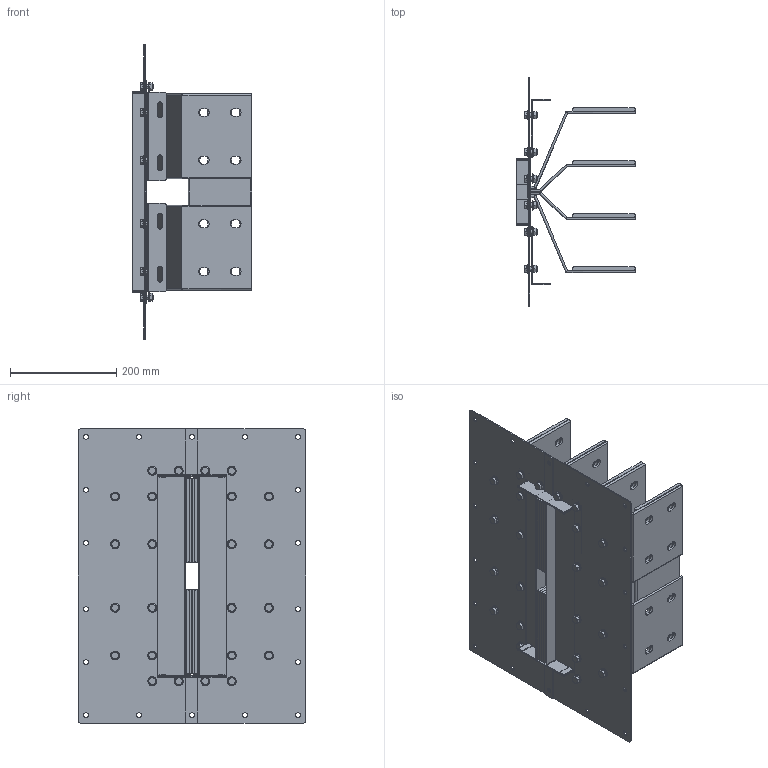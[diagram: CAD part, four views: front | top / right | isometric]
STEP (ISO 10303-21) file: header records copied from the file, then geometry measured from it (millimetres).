
FILE_DESCRIPTION(('CATIA V5 STEP','CAx-IF Rec.Pracs.--- Model Styling and Organization---1.5--- 2016-08-15','CAx-IF Rec.Pracs.---Supplemental Geometry---1.0---2011-11-01','CAx-IF Rec.Pracs.--- Composite Materials ---1.1---2010-07-15'),'2;1');
FILE_NAME('K:\COSCN 2011\32372311_RiduzioneSezioniBarre\03_Studio\__Modelli semplificati\XCP_UB semplificati per studi\XCP-HP_UB_4C_Pe_STD_Assieme\Al\XCP-HP_UB_4C_Pe_D_Assieme - 2500A Al\XCP-HP_UB_4C_Pe_D_Assieme - 2500A Al.stp','2025-05-12T10:09:54+00:00',('Utente Bticino'),('Bticino S.p.A.'),'CATIA Version 5-6 Release 2020 SP5','CATIA V5 STEP AP214 v2','none');
FILE_SCHEMA(('AUTOMOTIVE_DESIGN { 1 0 10303 214 1 1 1 1 }'));
Length unit declared in the file: millimetre
Products named in the file (8): XCP-HP_UB_4C_Pe_D_Assieme - 2500A Al; XCP-HP_UB_4C_Pe_D_PaccoBarre_2500A Al; XCP-HP_UB_4C_Pe_D_Lamiere_2500A Al; XCP-HP_UB_4C_Pe_D_PaccoBarre_2500A Al_1; XCP-HP_UB_4C_Pe_D - 2500A Al_Bandelle parallelo; Ass Vite+dado M8; Steel hex flanged SCREW M12x16; Steel hex flanged NUT M8
Assembly tree (30 placements, depth 3):
  XCP-HP_UB_4C_Pe_D_Assieme - 2500A Al
    XCP-HP_UB_4C_Pe_D_PaccoBarre_2500A Al
    XCP-HP_UB_4C_Pe_D_Lamiere_2500A Al
    XCP-HP_UB_4C_Pe_D_PaccoBarre_2500A Al_1
    XCP-HP_UB_4C_Pe_D - 2500A Al_Bandelle parallelo
    Ass Vite+dado M8  x24
      Steel hex flanged SCREW M12x16
      Steel hex flanged NUT M8
Bounding box: 225 x 430 x 555 mm (x, y, z)
Volume: 3361511.1 mm3; surface area: 1920513.1 mm2
Topology: 70 solids, 70 shells, 1868 faces, 4632 edges, 2952 vertices
Faces by surface type: plane 792, cylinder 644, cone 192, bspline 192, torus 48
Entity records: 25533 total; most frequent: CARTESIAN_POINT 5502, ORIENTED_EDGE 4388, DIRECTION 3272, EDGE_CURVE 2194, VERTEX_POINT 1434, AXIS2_PLACEMENT_3D 1352, VECTOR 1340, LINE 1340
